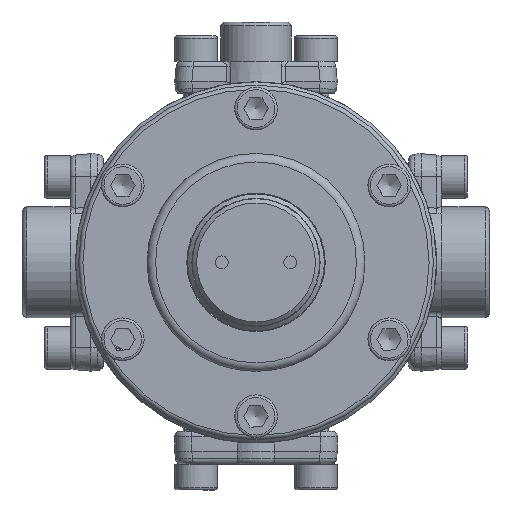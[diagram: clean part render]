
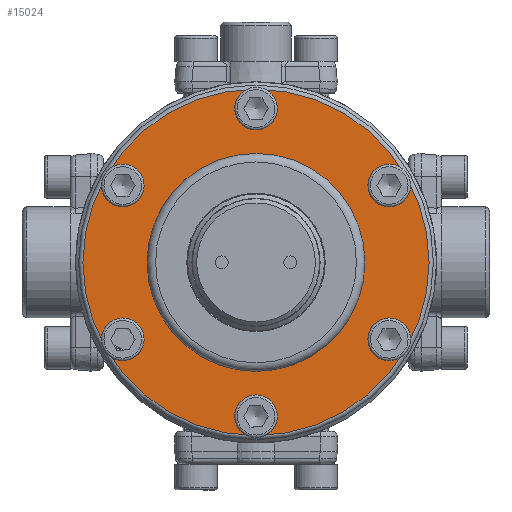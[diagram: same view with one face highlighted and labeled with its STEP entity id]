
A CAD part, front view. The second image highlights one B-rep face of the part: STEP entity #15024.
In plain terms, the highlighted planar face has unit normal (0, -1, 0) as drawn and (0, 1, 0) by its records, which use the part's own axes.
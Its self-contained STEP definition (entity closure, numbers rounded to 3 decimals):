
#736=FACE_BOUND('',#3826,.T.);
#737=FACE_BOUND('',#3827,.T.);
#738=FACE_BOUND('',#3828,.T.);
#739=FACE_BOUND('',#3829,.T.);
#740=FACE_BOUND('',#3830,.T.);
#741=FACE_BOUND('',#3831,.T.);
#742=FACE_BOUND('',#3832,.T.);
#864=PLANE('',#17184);
#2940=FACE_OUTER_BOUND('',#3825,.T.);
#3825=EDGE_LOOP('',(#10521,#10522));
#3826=EDGE_LOOP('',(#10523,#10524));
#3827=EDGE_LOOP('',(#10525,#10526));
#3828=EDGE_LOOP('',(#10527,#10528));
#3829=EDGE_LOOP('',(#10529,#10530));
#3830=EDGE_LOOP('',(#10531,#10532));
#3831=EDGE_LOOP('',(#10533,#10534));
#3832=EDGE_LOOP('',(#10535,#10536));
#4880=CIRCLE('',#17152,3.25);
#4881=CIRCLE('',#17153,3.25);
#4883=CIRCLE('',#17156,3.25);
#4884=CIRCLE('',#17157,3.25);
#4886=CIRCLE('',#17160,3.25);
#4887=CIRCLE('',#17161,3.25);
#4902=CIRCLE('',#17182,25.5);
#4903=CIRCLE('',#17183,25.5);
#4904=CIRCLE('',#17185,40.5);
#4905=CIRCLE('',#17186,40.5);
#4906=CIRCLE('',#17187,3.25);
#4907=CIRCLE('',#17188,3.25);
#4908=CIRCLE('',#17189,3.25);
#4909=CIRCLE('',#17190,3.25);
#4910=CIRCLE('',#17191,3.25);
#4911=CIRCLE('',#17192,3.25);
#6292=VERTEX_POINT('',#24473);
#6293=VERTEX_POINT('',#24474);
#6294=VERTEX_POINT('',#24480);
#6295=VERTEX_POINT('',#24481);
#6296=VERTEX_POINT('',#24487);
#6297=VERTEX_POINT('',#24488);
#6307=VERTEX_POINT('',#24523);
#6308=VERTEX_POINT('',#24524);
#6309=VERTEX_POINT('',#24529);
#6310=VERTEX_POINT('',#24530);
#6311=VERTEX_POINT('',#24533);
#6312=VERTEX_POINT('',#24534);
#6313=VERTEX_POINT('',#24537);
#6314=VERTEX_POINT('',#24538);
#6315=VERTEX_POINT('',#24541);
#6316=VERTEX_POINT('',#24542);
#7943=EDGE_CURVE('',#6292,#6293,#4880,.T.);
#7944=EDGE_CURVE('',#6293,#6292,#4881,.T.);
#7947=EDGE_CURVE('',#6294,#6295,#4883,.T.);
#7948=EDGE_CURVE('',#6295,#6294,#4884,.T.);
#7951=EDGE_CURVE('',#6296,#6297,#4886,.T.);
#7952=EDGE_CURVE('',#6297,#6296,#4887,.T.);
#7970=EDGE_CURVE('',#6307,#6308,#4902,.T.);
#7972=EDGE_CURVE('',#6308,#6307,#4903,.T.);
#7973=EDGE_CURVE('',#6309,#6310,#4904,.T.);
#7974=EDGE_CURVE('',#6310,#6309,#4905,.T.);
#7975=EDGE_CURVE('',#6311,#6312,#4906,.T.);
#7976=EDGE_CURVE('',#6312,#6311,#4907,.T.);
#7977=EDGE_CURVE('',#6313,#6314,#4908,.T.);
#7978=EDGE_CURVE('',#6314,#6313,#4909,.T.);
#7979=EDGE_CURVE('',#6315,#6316,#4910,.T.);
#7980=EDGE_CURVE('',#6316,#6315,#4911,.T.);
#10521=ORIENTED_EDGE('',*,*,#7973,.F.);
#10522=ORIENTED_EDGE('',*,*,#7974,.F.);
#10523=ORIENTED_EDGE('',*,*,#7970,.F.);
#10524=ORIENTED_EDGE('',*,*,#7972,.F.);
#10525=ORIENTED_EDGE('',*,*,#7975,.T.);
#10526=ORIENTED_EDGE('',*,*,#7976,.T.);
#10527=ORIENTED_EDGE('',*,*,#7977,.T.);
#10528=ORIENTED_EDGE('',*,*,#7978,.T.);
#10529=ORIENTED_EDGE('',*,*,#7979,.T.);
#10530=ORIENTED_EDGE('',*,*,#7980,.T.);
#10531=ORIENTED_EDGE('',*,*,#7943,.T.);
#10532=ORIENTED_EDGE('',*,*,#7944,.T.);
#10533=ORIENTED_EDGE('',*,*,#7951,.T.);
#10534=ORIENTED_EDGE('',*,*,#7952,.T.);
#10535=ORIENTED_EDGE('',*,*,#7947,.T.);
#10536=ORIENTED_EDGE('',*,*,#7948,.T.);
#15024=ADVANCED_FACE('',(#2940,#736,#737,#738,#739,#740,#741,#742),#864,
 .T.);
#17152=AXIS2_PLACEMENT_3D('',#24475,#19409,#19410);
#17153=AXIS2_PLACEMENT_3D('',#24476,#19411,#19412);
#17156=AXIS2_PLACEMENT_3D('',#24482,#19418,#19419);
#17157=AXIS2_PLACEMENT_3D('',#24483,#19420,#19421);
#17160=AXIS2_PLACEMENT_3D('',#24489,#19427,#19428);
#17161=AXIS2_PLACEMENT_3D('',#24490,#19429,#19430);
#17182=AXIS2_PLACEMENT_3D('',#24525,#19474,#19475);
#17183=AXIS2_PLACEMENT_3D('',#24527,#19477,#19478);
#17184=AXIS2_PLACEMENT_3D('',#24528,#19479,#19480);
#17185=AXIS2_PLACEMENT_3D('',#24531,#19481,#19482);
#17186=AXIS2_PLACEMENT_3D('',#24532,#19483,#19484);
#17187=AXIS2_PLACEMENT_3D('',#24535,#19485,#19486);
#17188=AXIS2_PLACEMENT_3D('',#24536,#19487,#19488);
#17189=AXIS2_PLACEMENT_3D('',#24539,#19489,#19490);
#17190=AXIS2_PLACEMENT_3D('',#24540,#19491,#19492);
#17191=AXIS2_PLACEMENT_3D('',#24543,#19493,#19494);
#17192=AXIS2_PLACEMENT_3D('',#24544,#19495,#19496);
#19409=DIRECTION('center_axis',(0.,-1.,0.));
#19410=DIRECTION('ref_axis',(-0.5,0.,0.866));
#19411=DIRECTION('center_axis',(0.,-1.,0.));
#19412=DIRECTION('ref_axis',(-0.5,0.,0.866));
#19418=DIRECTION('center_axis',(0.,-1.,0.));
#19419=DIRECTION('ref_axis',(0.5,0.,0.866));
#19420=DIRECTION('center_axis',(0.,-1.,0.));
#19421=DIRECTION('ref_axis',(0.5,0.,0.866));
#19427=DIRECTION('center_axis',(0.,-1.,0.));
#19428=DIRECTION('ref_axis',(1.,0.,0.));
#19429=DIRECTION('center_axis',(0.,-1.,0.));
#19430=DIRECTION('ref_axis',(1.,0.,0.));
#19474=DIRECTION('center_axis',(0.,1.,0.));
#19475=DIRECTION('ref_axis',(1.,0.,0.));
#19477=DIRECTION('center_axis',(0.,1.,0.));
#19478=DIRECTION('ref_axis',(1.,0.,0.));
#19479=DIRECTION('center_axis',(0.,1.,0.));
#19480=DIRECTION('ref_axis',(0.,0.,
1.));
#19481=DIRECTION('center_axis',(0.,-1.,0.));
#19482=DIRECTION('ref_axis',(-1.,0.,0.));
#19483=DIRECTION('center_axis',(0.,-1.,0.));
#19484=DIRECTION('ref_axis',(-1.,0.,0.));
#19485=DIRECTION('center_axis',(0.,-1.,0.));
#19486=DIRECTION('ref_axis',(-0.5,0.,-0.866));
#19487=DIRECTION('center_axis',(0.,-1.,0.));
#19488=DIRECTION('ref_axis',(-0.5,0.,-0.866));
#19489=DIRECTION('center_axis',(0.,-1.,0.));
#19490=DIRECTION('ref_axis',(-1.,0.,0.));
#19491=DIRECTION('center_axis',(0.,-1.,0.));
#19492=DIRECTION('ref_axis',(-1.,0.,0.));
#19493=DIRECTION('center_axis',(0.,-1.,0.));
#19494=DIRECTION('ref_axis',(0.5,0.,-0.866));
#19495=DIRECTION('center_axis',(0.,-1.,0.));
#19496=DIRECTION('ref_axis',(0.5,0.,-0.866));
#24473=CARTESIAN_POINT('',(-19.748,8.,28.437));
#24474=CARTESIAN_POINT('',(-16.375,8.,28.362));
#24475=CARTESIAN_POINT('Origin',(-18.,8.,31.177));
#24476=CARTESIAN_POINT('Origin',(-18.,8.,31.177));
#24480=CARTESIAN_POINT('',(14.753,8.,31.32));
#24481=CARTESIAN_POINT('',(16.375,8.,28.362));
#24482=CARTESIAN_POINT('Origin',(18.,8.,31.177));
#24483=CARTESIAN_POINT('Origin',(18.,8.,31.177));
#24487=CARTESIAN_POINT('',(39.25,8.,0.));
#24488=CARTESIAN_POINT('',(32.75,8.,0.));
#24489=CARTESIAN_POINT('Origin',(36.,8.,0.));
#24490=CARTESIAN_POINT('Origin',(36.,8.,0.));
#24523=CARTESIAN_POINT('',(25.5,8.,0.));
#24524=CARTESIAN_POINT('',(-25.5,8.,0.));
#24525=CARTESIAN_POINT('Origin',(0.,8.,0.));
#24527=CARTESIAN_POINT('Origin',(0.,8.,0.));
#24528=CARTESIAN_POINT('Origin',(36.,8.,0.));
#24529=CARTESIAN_POINT('',(40.5,8.,0.));
#24530=CARTESIAN_POINT('',(0.,8.,40.5));
#24531=CARTESIAN_POINT('Origin',(0.,8.,0.));
#24532=CARTESIAN_POINT('Origin',(0.,8.,0.));
#24533=CARTESIAN_POINT('',(-19.625,8.,-33.991));
#24534=CARTESIAN_POINT('',(-16.375,8.,-28.362));
#24535=CARTESIAN_POINT('Origin',(-18.,8.,-31.177));
#24536=CARTESIAN_POINT('Origin',(-18.,8.,-31.177));
#24537=CARTESIAN_POINT('',(-34.501,8.,-2.884));
#24538=CARTESIAN_POINT('',(-32.75,8.,0.));
#24539=CARTESIAN_POINT('Origin',(-36.,8.,0.));
#24540=CARTESIAN_POINT('Origin',(-36.,8.,0.));
#24541=CARTESIAN_POINT('',(19.625,8.,-33.991));
#24542=CARTESIAN_POINT('',(16.375,8.,-28.362));
#24543=CARTESIAN_POINT('Origin',(18.,8.,-31.177));
#24544=CARTESIAN_POINT('Origin',(18.,8.,-31.177));
